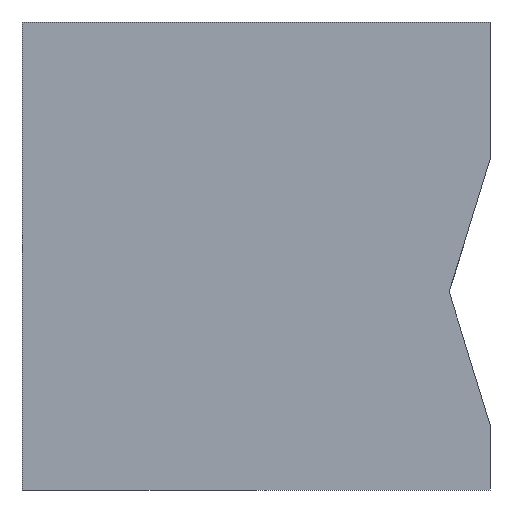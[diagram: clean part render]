
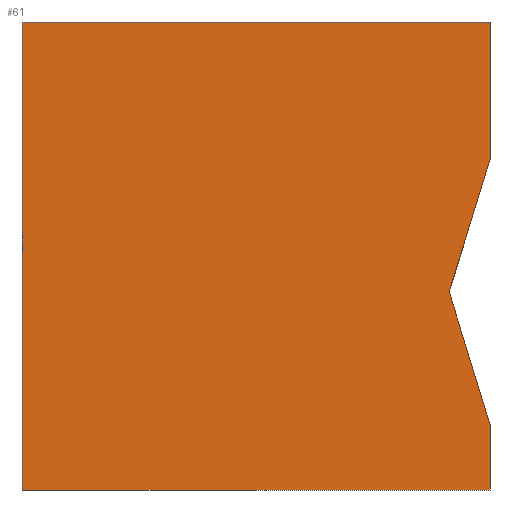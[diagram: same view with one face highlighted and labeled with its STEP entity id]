
A CAD part, left-side view. The second image highlights one B-rep face of the part: STEP entity #61.
In plain terms, the highlighted planar face has unit normal (-1, 0, 0).
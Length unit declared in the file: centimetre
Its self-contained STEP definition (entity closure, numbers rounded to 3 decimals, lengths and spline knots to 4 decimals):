
#3 = LINE ( 'NONE', #301, #651 ) ;
#7 = VECTOR ( 'NONE', #203, 100. ) ;
#42 = VERTEX_POINT ( 'NONE', #602 ) ;
#56 = CARTESIAN_POINT ( 'NONE',  ( 0., 0., 1000. ) ) ;
#61 = ADVANCED_FACE ( 'NONE', ( #348 ), #235, .F. ) ;
#64 = CARTESIAN_POINT ( 'NONE',  ( 0., 0., 140.6729 ) ) ;
#84 = EDGE_CURVE ( 'NONE', #485, #294, #3, .T. ) ;
#85 = EDGE_CURVE ( 'NONE', #325, #442, #239, .T. ) ;
#118 = ORIENTED_EDGE ( 'NONE', *, *, #85, .F. ) ;
#141 = EDGE_CURVE ( 'NONE', #294, #442, #243, .T. ) ;
#163 = VERTEX_POINT ( 'NONE', #253 ) ;
#188 = LINE ( 'NONE', #264, #393 ) ;
#202 = ORIENTED_EDGE ( 'NONE', *, *, #478, .F. ) ;
#203 = DIRECTION ( 'NONE',  ( 0., -1., 0. ) ) ;
#235 = PLANE ( 'NONE',  #258 ) ;
#239 = LINE ( 'NONE', #659, #637 ) ;
#243 = LINE ( 'NONE', #475, #7 ) ;
#244 = CARTESIAN_POINT ( 'NONE',  ( 0., 0., 140.6729 ) ) ;
#248 = VERTEX_POINT ( 'NONE', #519 ) ;
#253 = CARTESIAN_POINT ( 'NONE',  ( 0., 0., 705.6489 ) ) ;
#258 = AXIS2_PLACEMENT_3D ( 'NONE', #463, #453, #611 ) ;
#264 = CARTESIAN_POINT ( 'NONE',  ( 0., 87.1913, 423.1609 ) ) ;
#266 = ORIENTED_EDGE ( 'NONE', *, *, #360, .F. ) ;
#288 = ORIENTED_EDGE ( 'NONE', *, *, #84, .T. ) ;
#293 = DIRECTION ( 'NONE',  ( 0., 0., -1. ) ) ;
#294 = VERTEX_POINT ( 'NONE', #322 ) ;
#300 = ORIENTED_EDGE ( 'NONE', *, *, #630, .F. ) ;
#301 = CARTESIAN_POINT ( 'NONE',  ( 0., 1000., 1000. ) ) ;
#319 = EDGE_CURVE ( 'NONE', #42, #325, #563, .T. ) ;
#321 = ORIENTED_EDGE ( 'NONE', *, *, #141, .T. ) ;
#322 = CARTESIAN_POINT ( 'NONE',  ( 0., 1000., 0. ) ) ;
#323 = DIRECTION ( 'NONE',  ( 0., 0.295, -0.956 ) ) ;
#325 = VERTEX_POINT ( 'NONE', #244 ) ;
#336 = CARTESIAN_POINT ( 'NONE',  ( 0., 0., 0. ) ) ;
#348 = FACE_OUTER_BOUND ( 'NONE', #547, .T. ) ;
#354 = ORIENTED_EDGE ( 'NONE', *, *, #319, .F. ) ;
#360 = EDGE_CURVE ( 'NONE', #248, #163, #556, .T. ) ;
#393 = VECTOR ( 'NONE', #323, 100. ) ;
#442 = VERTEX_POINT ( 'NONE', #336 ) ;
#453 = DIRECTION ( 'NONE',  ( 1., 0., 0. ) ) ;
#463 = CARTESIAN_POINT ( 'NONE',  ( 0., 1000., 1000. ) ) ;
#475 = CARTESIAN_POINT ( 'NONE',  ( 0., 1000., 0. ) ) ;
#476 = VECTOR ( 'NONE', #293, 100. ) ;
#477 = VECTOR ( 'NONE', #591, 100. ) ;
#478 = EDGE_CURVE ( 'NONE', #485, #248, #646, .T. ) ;
#485 = VERTEX_POINT ( 'NONE', #496 ) ;
#487 = CARTESIAN_POINT ( 'NONE',  ( 0., 1000., 1000. ) ) ;
#496 = CARTESIAN_POINT ( 'NONE',  ( 0., 1000., 1000. ) ) ;
#510 = DIRECTION ( 'NONE',  ( 0., 0., -1. ) ) ;
#514 = DIRECTION ( 'NONE',  ( 0., -0.295, -0.956 ) ) ;
#519 = CARTESIAN_POINT ( 'NONE',  ( 0., 0., 1000. ) ) ;
#547 = EDGE_LOOP ( 'NONE', ( #118, #354, #300, #266, #202, #288, #321 ) ) ;
#553 = DIRECTION ( 'NONE',  ( 0., 0., -1. ) ) ;
#556 = LINE ( 'NONE', #56, #476 ) ;
#563 = LINE ( 'NONE', #64, #569 ) ;
#569 = VECTOR ( 'NONE', #514, 100. ) ;
#591 = DIRECTION ( 'NONE',  ( 0., -1., 0. ) ) ;
#602 = CARTESIAN_POINT ( 'NONE',  ( 0., 87.1913, 423.1609 ) ) ;
#611 = DIRECTION ( 'NONE',  ( 0., 0., -1. ) ) ;
#630 = EDGE_CURVE ( 'NONE', #163, #42, #188, .T. ) ;
#637 = VECTOR ( 'NONE', #553, 100. ) ;
#646 = LINE ( 'NONE', #487, #477 ) ;
#651 = VECTOR ( 'NONE', #510, 100. ) ;
#659 = CARTESIAN_POINT ( 'NONE',  ( 0., 0., 1000. ) ) ;
